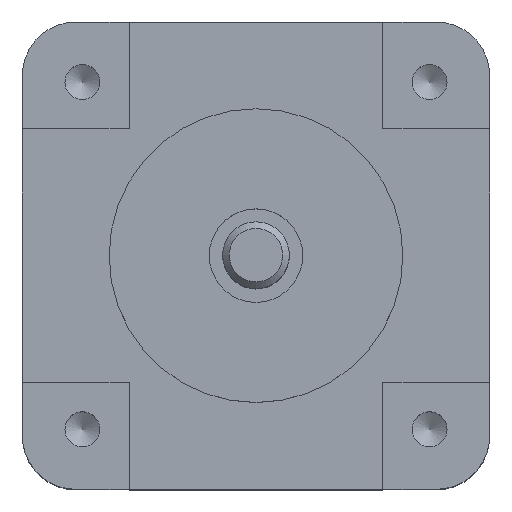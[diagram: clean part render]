
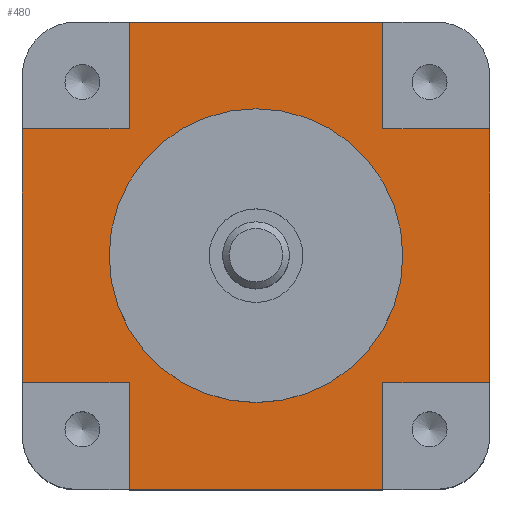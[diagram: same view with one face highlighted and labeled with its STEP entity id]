
A CAD part, top view. The second image highlights one B-rep face of the part: STEP entity #480.
In plain terms, the highlighted planar face has unit normal (0, 0, 1).
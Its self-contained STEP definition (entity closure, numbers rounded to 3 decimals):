
#480=ADVANCED_FACE('',(#2008,#2010),#2012,.T.);
#2008=FACE_BOUND('',#2009,.T.);
#2009=EDGE_LOOP('',(#3553,#3554,#3555,#3556,#3557,#3558,#3559,#3560,#3561,#3562,
#3563,#3564));
#2010=FACE_BOUND('',#2011,.T.);
#2011=EDGE_LOOP('',(#3565));
#2012=PLANE('',#2013);
#2013=AXIS2_PLACEMENT_3D('',#2014,#2015,#2016);
#2014=CARTESIAN_POINT('',(0.,0.,27.9));
#2015=DIRECTION('',(0.,0.,1.));
#2016=DIRECTION('',(1.,0.,0.));
#3553=ORIENTED_EDGE('',*,*,#4427,.F.);
#3554=ORIENTED_EDGE('',*,*,#4511,.T.);
#3555=ORIENTED_EDGE('',*,*,#4512,.T.);
#3556=ORIENTED_EDGE('',*,*,#4457,.F.);
#3557=ORIENTED_EDGE('',*,*,#4513,.T.);
#3558=ORIENTED_EDGE('',*,*,#4514,.T.);
#3559=ORIENTED_EDGE('',*,*,#4413,.F.);
#3560=ORIENTED_EDGE('',*,*,#4515,.T.);
#3561=ORIENTED_EDGE('',*,*,#4516,.T.);
#3562=ORIENTED_EDGE('',*,*,#4387,.F.);
#3563=ORIENTED_EDGE('',*,*,#4510,.T.);
#3564=ORIENTED_EDGE('',*,*,#4517,.T.);
#3565=ORIENTED_EDGE('',*,*,#4518,.F.);
#4387=EDGE_CURVE('',#4865,#4867,#4868,.T.);
#4413=EDGE_CURVE('',#4917,#4919,#4920,.T.);
#4427=EDGE_CURVE('',#4945,#4947,#4948,.T.);
#4457=EDGE_CURVE('',#5005,#5007,#5008,.T.);
#4510=EDGE_CURVE('',#4865,#5082,#5084,.T.);
#4511=EDGE_CURVE('',#4945,#5085,#5086,.T.);
#4512=EDGE_CURVE('',#5085,#5007,#5087,.T.);
#4513=EDGE_CURVE('',#5005,#5088,#5089,.T.);
#4514=EDGE_CURVE('',#5088,#4919,#5090,.T.);
#4515=EDGE_CURVE('',#4917,#5091,#5092,.T.);
#4516=EDGE_CURVE('',#5091,#4867,#5093,.T.);
#4517=EDGE_CURVE('',#5082,#4947,#5094,.T.);
#4518=EDGE_CURVE('',#5095,#5095,#5096,.T.);
#4865=VERTEX_POINT('',#5637);
#4867=VERTEX_POINT('',#5641);
#4868=LINE('',#5642,#5643);
#4917=VERTEX_POINT('',#5741);
#4919=VERTEX_POINT('',#5745);
#4920=LINE('',#5746,#5747);
#4945=VERTEX_POINT('',#5797);
#4947=VERTEX_POINT('',#5801);
#4948=LINE('',#5802,#5803);
#5005=VERTEX_POINT('',#5917);
#5007=VERTEX_POINT('',#5921);
#5008=LINE('',#5922,#5923);
#5082=VERTEX_POINT('',#6129);
#5084=LINE('',#6133,#6134);
#5085=VERTEX_POINT('',#6136);
#5086=LINE('',#6137,#6138);
#5087=LINE('',#6140,#6141);
#5088=VERTEX_POINT('',#6143);
#5089=LINE('',#6144,#6145);
#5090=LINE('',#6147,#6148);
#5091=VERTEX_POINT('',#6150);
#5092=LINE('',#6151,#6152);
#5093=LINE('',#6154,#6155);
#5094=LINE('',#6157,#6158);
#5095=VERTEX_POINT('',#6160);
#5096=CIRCLE('',#6161,11.);
#5637=CARTESIAN_POINT('',(9.5,-17.5,27.9));
#5641=CARTESIAN_POINT('',(-9.5,-17.5,27.9));
#5642=CARTESIAN_POINT('',(9.5,-17.5,27.9));
#5643=VECTOR('',#5644,1.);
#5644=DIRECTION('',(-1.,0.,0.));
#5741=CARTESIAN_POINT('',(-17.5,-9.5,27.9));
#5745=CARTESIAN_POINT('',(-17.5,9.5,27.9));
#5746=CARTESIAN_POINT('',(-17.5,-9.5,27.9));
#5747=VECTOR('',#5748,1.);
#5748=DIRECTION('',(0.,1.,0.));
#5797=CARTESIAN_POINT('',(17.5,9.5,27.9));
#5801=CARTESIAN_POINT('',(17.5,-9.5,27.9));
#5802=CARTESIAN_POINT('',(17.5,9.5,27.9));
#5803=VECTOR('',#5804,1.);
#5804=DIRECTION('',(0.,-1.,0.));
#5917=CARTESIAN_POINT('',(-9.5,17.5,27.9));
#5921=CARTESIAN_POINT('',(9.5,17.5,27.9));
#5922=CARTESIAN_POINT('',(-9.5,17.5,27.9));
#5923=VECTOR('',#5924,1.);
#5924=DIRECTION('',(1.,0.,0.));
#6129=CARTESIAN_POINT('',(9.5,-9.5,27.9));
#6133=CARTESIAN_POINT('',(9.5,-17.5,27.9));
#6134=VECTOR('',#6135,1.);
#6135=DIRECTION('',(0.,1.,0.));
#6136=CARTESIAN_POINT('',(9.5,9.5,27.9));
#6137=CARTESIAN_POINT('',(17.5,9.5,27.9));
#6138=VECTOR('',#6139,1.);
#6139=DIRECTION('',(-1.,0.,0.));
#6140=CARTESIAN_POINT('',(9.5,9.5,27.9));
#6141=VECTOR('',#6142,1.);
#6142=DIRECTION('',(0.,1.,0.));
#6143=CARTESIAN_POINT('',(-9.5,9.5,27.9));
#6144=CARTESIAN_POINT('',(-9.5,17.5,27.9));
#6145=VECTOR('',#6146,1.);
#6146=DIRECTION('',(0.,-1.,0.));
#6147=CARTESIAN_POINT('',(-9.5,9.5,27.9));
#6148=VECTOR('',#6149,1.);
#6149=DIRECTION('',(-1.,0.,0.));
#6150=CARTESIAN_POINT('',(-9.5,-9.5,27.9));
#6151=CARTESIAN_POINT('',(-17.5,-9.5,27.9));
#6152=VECTOR('',#6153,1.);
#6153=DIRECTION('',(1.,0.,0.));
#6154=CARTESIAN_POINT('',(-9.5,-9.5,27.9));
#6155=VECTOR('',#6156,1.);
#6156=DIRECTION('',(0.,-1.,0.));
#6157=CARTESIAN_POINT('',(9.5,-9.5,27.9));
#6158=VECTOR('',#6159,1.);
#6159=DIRECTION('',(1.,0.,0.));
#6160=CARTESIAN_POINT('',(11.,0.,27.9));
#6161=AXIS2_PLACEMENT_3D('',#6162,#6163,#6164);
#6162=CARTESIAN_POINT('',(0.,0.,27.9));
#6163=DIRECTION('',(0.,0.,1.));
#6164=DIRECTION('',(1.,0.,0.));
